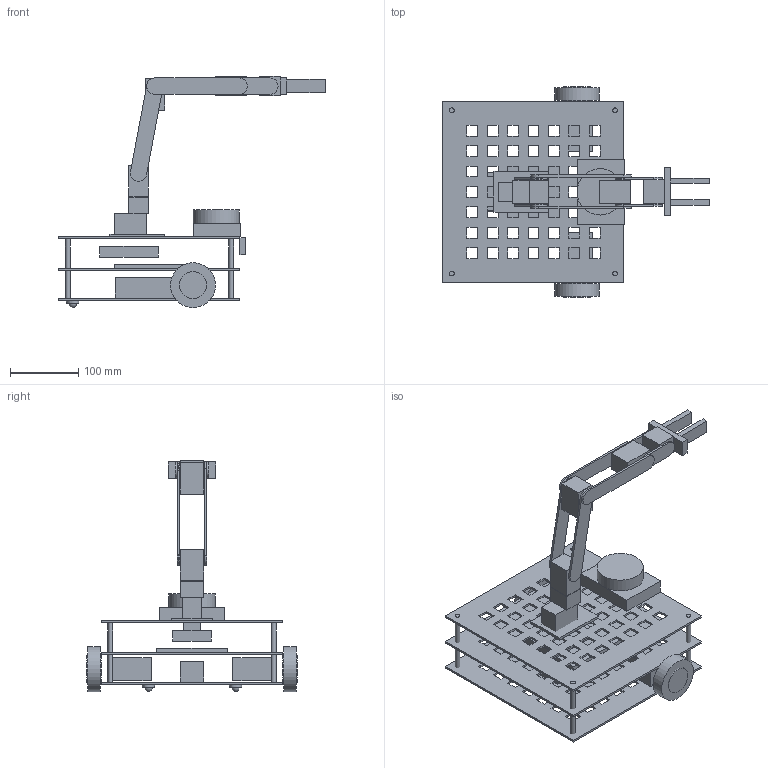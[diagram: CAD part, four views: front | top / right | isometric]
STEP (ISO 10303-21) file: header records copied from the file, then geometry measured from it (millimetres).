
FILE_DESCRIPTION(('Open CASCADE Model'),'2;1');
FILE_NAME('Open CASCADE Shape Model','2026-10-10T15:34:58',('Author'),( 'Open CASCADE'),'Open CASCADE STEP processor 7.9','Open CASCADE 7.9' ,'Unknown');
FILE_SCHEMA(('AUTOMOTIVE_DESIGN { 1 0 10303 214 1 1 1 1 }'));
Length unit declared in the file: millimetre
Products named in the file (51): TB3_OpenManipulatorX_assembly; base_link; waffle_plate_bottom; waffle_plate_middle; waffle_plate_top; standoffs_x4; wheel_motor_left_xm430; wheel_motor_right_xm430; lipo_battery; opencr_board; raspberry_pi; wheel_left_link; tire_left; wheel_hub_left; wheel_right_link; tire_right; wheel_hub_right; caster_back_left_link; ball_caster_holder_left; ball_caster_ball_left; caster_back_right_link; ball_caster_holder_right; ball_caster_ball_right; base_scan; lds01_body; lds01_turret; camera_link; raspberry_pi_camera; link1; omx_base_plate; omx_joint1_xm430; link2; omx_link2_bracket; omx_joint2_xm430; link3; omx_link3_plate_left; omx_link3_plate_right; omx_joint3_xm430; link4; omx_link4_plate_left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
Assembly tree (50 placements, depth 3):
  TB3_OpenManipulatorX_assembly
    base_link
      waffle_plate_bottom
      waffle_plate_middle
      waffle_plate_top
      standoffs_x4
      wheel_motor_left_xm430
      wheel_motor_right_xm430
      lipo_battery
      opencr_board
      raspberry_pi
    wheel_left_link
      tire_left
      wheel_hub_left
    wheel_right_link
      tire_right
      wheel_hub_right
    caster_back_left_link
      ball_caster_holder_left
      ball_caster_ball_left
    caster_back_right_link
      ball_caster_holder_right
      ball_caster_ball_right
    base_scan
      lds01_body
      lds01_turret
    camera_link
      raspberry_pi_camera
    link1
      omx_base_plate
      omx_joint1_xm430
    link2
      omx_link2_bracket
      omx_joint2_xm430
    link3
      omx_link3_plate_left
      omx_link3_plate_right
      omx_joint3_xm430
    link4
      omx_link4_plate_left
      omx_link4_plate_right
      omx_joint4_xm430
    link5
      omx_link5_plate_left
      omx_link5_plate_right
      omx_gripper_xm430
      omx_gripper_rail
    gripper_left_link
      omx_finger_left
    gripper_right_link
      omx_finger_right
Bounding box: 391 x 309 x 339.8 mm (x, y, z)
Volume: 1702477.8 mm3; surface area: 646106.2 mm2
Topology: 39 solids, 39 shells, 787 faces, 2127 edges, 1418 vertices
Faces by surface type: plane 758, cylinder 27, sphere 2
Full cylindrical faces by diameter (mm): 7 x4, 18 x2, 22 x4, 40 x2, 66 x2, 68 x1
Entity records: 51160 total; most frequent: CARTESIAN_POINT 10975, DIRECTION 5740, ORIENTED_EDGE 4242, PCURVE 4242, DEFINITIONAL_REPRESENTATION 4242, LINE 3903, VECTOR 3903, B_SPLINE_CURVE_WITH_KNOTS 2352
